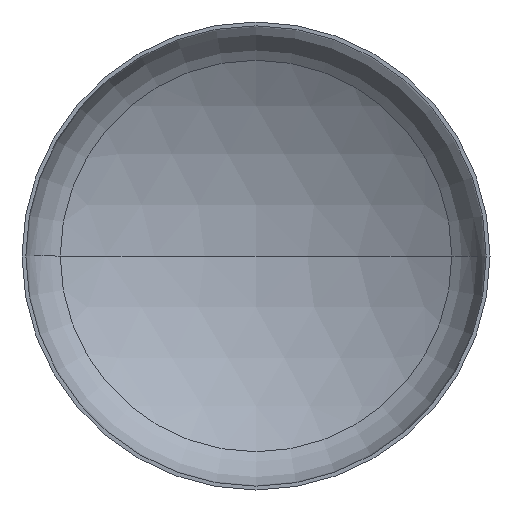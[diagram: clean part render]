
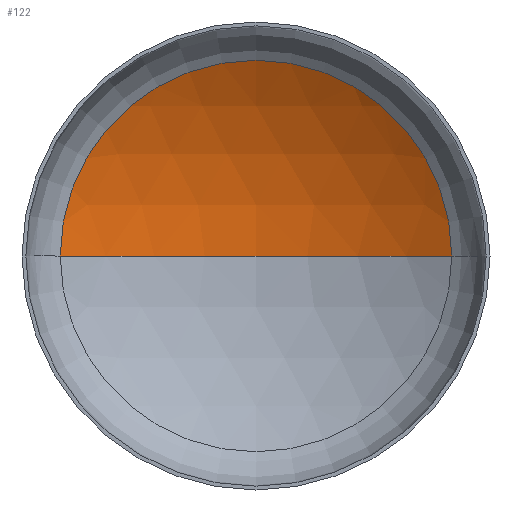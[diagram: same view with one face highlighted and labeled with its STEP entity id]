
A CAD part, front view. The second image highlights one B-rep face of the part: STEP entity #122.
In plain terms, the highlighted spherical face has radius 4800 mm.
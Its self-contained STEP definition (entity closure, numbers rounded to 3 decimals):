
#1 = VERTEX_POINT ( 'NONE', #270 ) ;
#71 = EDGE_CURVE ( 'NONE', #1, #116, #367, .T. ) ;
#74 = EDGE_CURVE ( 'NONE', #106, #1, #302, .T. ) ;
#78 = ORIENTED_EDGE ( 'NONE', *, *, #71, .T. ) ;
#79 = EDGE_LOOP ( 'NONE', ( #390, #82, #78 ) ) ;
#82 = ORIENTED_EDGE ( 'NONE', *, *, #74, .T. ) ;
#84 = EDGE_CURVE ( 'NONE', #106, #116, #167, .T. ) ;
#106 = VERTEX_POINT ( 'NONE', #404 ) ;
#116 = VERTEX_POINT ( 'NONE', #160 ) ;
#122 = ADVANCED_FACE ( 'NONE', ( #408 ), #158, .F. ) ;
#158 = SPHERICAL_SURFACE ( 'NONE', #329, 4800. ) ;
#160 = CARTESIAN_POINT ( 'NONE',  ( -2509.626, 938.499, 0. ) ) ;
#167 = CIRCLE ( 'NONE', #248, 4800. ) ;
#170 = CARTESIAN_POINT ( 'NONE',  ( 0., -3153.173, 0. ) ) ;
#183 = DIRECTION ( 'NONE',  ( -1., 0., 0. ) ) ;
#190 = DIRECTION ( 'NONE',  ( 0., 0., -1. ) ) ;
#201 = CARTESIAN_POINT ( 'NONE',  ( 0., -3153.173, 0. ) ) ;
#215 = DIRECTION ( 'NONE',  ( 1., 0., 0. ) ) ;
#218 = AXIS2_PLACEMENT_3D ( 'NONE', #285, #283, #280 ) ;
#228 = DIRECTION ( 'NONE',  ( -1., 0., 0. ) ) ;
#229 = AXIS2_PLACEMENT_3D ( 'NONE', #201, #190, #183 ) ;
#232 = CARTESIAN_POINT ( 'NONE',  ( 0., -3153.173, 0. ) ) ;
#248 = AXIS2_PLACEMENT_3D ( 'NONE', #170, #314, #215 ) ;
#270 = CARTESIAN_POINT ( 'NONE',  ( 2509.626, 938.499, 0. ) ) ;
#280 = DIRECTION ( 'NONE',  ( 1., 0., 0. ) ) ;
#283 = DIRECTION ( 'NONE',  ( 0., -1., 0. ) ) ;
#285 = CARTESIAN_POINT ( 'NONE',  ( 0., 938.499, 0. ) ) ;
#302 = CIRCLE ( 'NONE', #229, 4800. ) ;
#314 = DIRECTION ( 'NONE',  ( 0., 0., 1. ) ) ;
#329 = AXIS2_PLACEMENT_3D ( 'NONE', #232, #400, #228 ) ;
#367 = CIRCLE ( 'NONE', #218, 2509.626 ) ;
#390 = ORIENTED_EDGE ( 'NONE', *, *, #84, .F. ) ;
#400 = DIRECTION ( 'NONE',  ( 0., 0., -1. ) ) ;
#404 = CARTESIAN_POINT ( 'NONE',  ( 0., 1646.827, 0. ) ) ;
#408 = FACE_OUTER_BOUND ( 'NONE', #79, .T. ) ;
